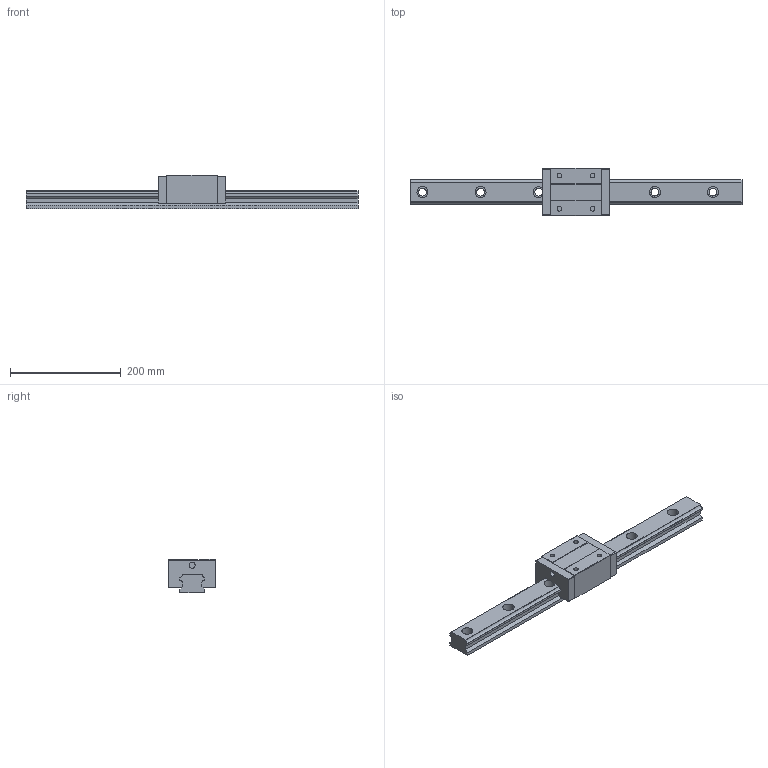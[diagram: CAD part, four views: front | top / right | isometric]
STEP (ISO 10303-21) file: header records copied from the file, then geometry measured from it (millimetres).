
FILE_DESCRIPTION (( 'STEP AP203' ), '1' );
FILE_NAME ('TRS45VN-XNC.STEP', '2024-08-16T07:34:58', ( '' ), ( '' ), 'SwSTEP 2.0', 'SolidWorks 2021', '' );
FILE_SCHEMA (( 'CONFIG_CONTROL_DESIGN' ));
Length unit declared in the file: millimetre
Products named in the file (1): TRS45VN-XNC
Bounding box: 600 x 85.5 x 60 mm (x, y, z)
Volume: 1124096.2 mm3; surface area: 150374.1 mm2
Topology: 1 solids, 1 shells, 154 faces, 424 edges, 280 vertices
Faces by surface type: plane 82, cylinder 72
Entity records: 5037 total; most frequent: DIRECTION 882, CARTESIAN_POINT 859, ORIENTED_EDGE 848, EDGE_CURVE 424, AXIS2_PLACEMENT_3D 303, VERTEX_POINT 280, LINE 276, VECTOR 276
